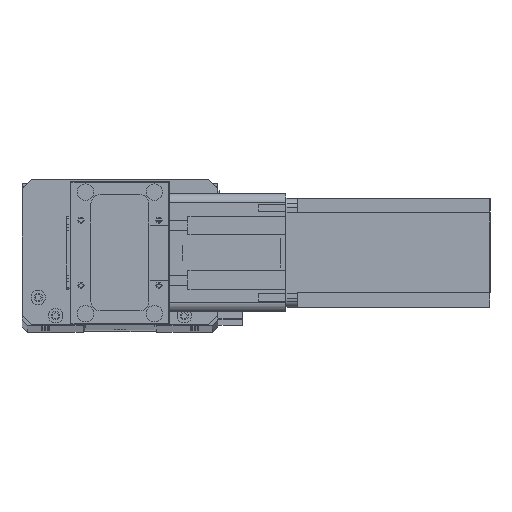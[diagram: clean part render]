
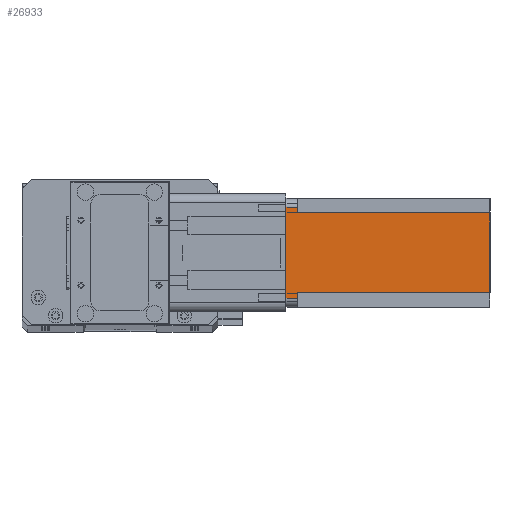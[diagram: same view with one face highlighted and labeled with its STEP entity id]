
A CAD part, top view. The second image highlights one B-rep face of the part: STEP entity #26933.
In plain terms, the highlighted planar face has unit normal (0, 0, 1) as drawn and (0, 1, 0) by its records, which use the part's own axes.
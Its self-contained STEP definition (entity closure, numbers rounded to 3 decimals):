
#214 = CARTESIAN_POINT ( 'NONE',  ( 0., 60., -112.5 ) ) ;
#1347 = EDGE_CURVE ( 'NONE', #11499, #14573, #23648, .T. ) ;
#1443 = LINE ( 'NONE', #25983, #19719 ) ;
#1473 = VECTOR ( 'NONE', #21817, 1000. ) ;
#1663 = ORIENTED_EDGE ( 'NONE', *, *, #25611, .T. ) ;
#1990 = EDGE_CURVE ( 'NONE', #12172, #14269, #6402, .T. ) ;
#3219 = EDGE_CURVE ( 'NONE', #14573, #12546, #10614, .T. ) ;
#4644 = ORIENTED_EDGE ( 'NONE', *, *, #12004, .T. ) ;
#4957 = DIRECTION ( 'NONE',  ( 0., 0., 1. ) ) ;
#5995 = ORIENTED_EDGE ( 'NONE', *, *, #1347, .F. ) ;
#6402 = LINE ( 'NONE', #11116, #17880 ) ;
#6979 = CARTESIAN_POINT ( 'NONE',  ( 8., 60., -112.5 ) ) ;
#7695 = DIRECTION ( 'NONE',  ( 0., 0., 1. ) ) ;
#8981 = CARTESIAN_POINT ( 'NONE',  ( 52., 60., -6.5 ) ) ;
#9122 = DIRECTION ( 'NONE',  ( 0., 0., -1. ) ) ;
#9909 = VECTOR ( 'NONE', #13001, 1000. ) ;
#9967 = DIRECTION ( 'NONE',  ( -1., 0., 0. ) ) ;
#10614 = LINE ( 'NONE', #19730, #9909 ) ;
#10618 = EDGE_LOOP ( 'NONE', ( #26141, #1663, #24070, #5995, #29285, #25496, #26674, #4644 ) ) ;
#11116 = CARTESIAN_POINT ( 'NONE',  ( 8., 60., -112.5 ) ) ;
#11499 = VERTEX_POINT ( 'NONE', #20426 ) ;
#11620 = DIRECTION ( 'NONE',  ( 0., 0., 1. ) ) ;
#12004 = EDGE_CURVE ( 'NONE', #15358, #21275, #16331, .T. ) ;
#12172 = VERTEX_POINT ( 'NONE', #12400 ) ;
#12400 = CARTESIAN_POINT ( 'NONE',  ( 8., 60., -6.5 ) ) ;
#12546 = VERTEX_POINT ( 'NONE', #20807 ) ;
#13001 = DIRECTION ( 'NONE',  ( 1., 0., 0. ) ) ;
#13108 = CARTESIAN_POINT ( 'NONE',  ( 5., 60., 0. ) ) ;
#13986 = CARTESIAN_POINT ( 'NONE',  ( 52., 60., -112.5 ) ) ;
#14269 = VERTEX_POINT ( 'NONE', #6979 ) ;
#14336 = VECTOR ( 'NONE', #23115, 1000. ) ;
#14543 = VECTOR ( 'NONE', #16310, 1000. ) ;
#14573 = VERTEX_POINT ( 'NONE', #8981 ) ;
#14649 = CARTESIAN_POINT ( 'NONE',  ( 5., 60., -6.5 ) ) ;
#15358 = VERTEX_POINT ( 'NONE', #14649 ) ;
#16310 = DIRECTION ( 'NONE',  ( 0., 0., -1. ) ) ;
#16331 = LINE ( 'NONE', #16342, #28480 ) ;
#16342 = CARTESIAN_POINT ( 'NONE',  ( 5., 60., -112.5 ) ) ;
#16722 = PLANE ( 'NONE',  #24488 ) ;
#16821 = CARTESIAN_POINT ( 'NONE',  ( 0., 60., -112.5 ) ) ;
#17394 = CARTESIAN_POINT ( 'NONE',  ( 55., 60., 0. ) ) ;
#17880 = VECTOR ( 'NONE', #9122, 1000. ) ;
#19719 = VECTOR ( 'NONE', #9967, 1000. ) ;
#19730 = CARTESIAN_POINT ( 'NONE',  ( 52., 60., -6.5 ) ) ;
#19909 = LINE ( 'NONE', #25488, #14543 ) ;
#20426 = CARTESIAN_POINT ( 'NONE',  ( 52., 60., -112.5 ) ) ;
#20437 = LINE ( 'NONE', #214, #14336 ) ;
#20807 = CARTESIAN_POINT ( 'NONE',  ( 55., 60., -6.5 ) ) ;
#21275 = VERTEX_POINT ( 'NONE', #13108 ) ;
#21426 = DIRECTION ( 'NONE',  ( 0., 1., 0. ) ) ;
#21817 = DIRECTION ( 'NONE',  ( -1., 0., 0. ) ) ;
#22938 = VECTOR ( 'NONE', #4957, 1000. ) ;
#23085 = VERTEX_POINT ( 'NONE', #17394 ) ;
#23115 = DIRECTION ( 'NONE',  ( -1., 0., 0. ) ) ;
#23412 = FACE_OUTER_BOUND ( 'NONE', #10618, .T. ) ;
#23648 = LINE ( 'NONE', #13986, #22938 ) ;
#24070 = ORIENTED_EDGE ( 'NONE', *, *, #3219, .F. ) ;
#24381 = LINE ( 'NONE', #26392, #1473 ) ;
#24488 = AXIS2_PLACEMENT_3D ( 'NONE', #16821, #21426, #7695 ) ;
#25488 = CARTESIAN_POINT ( 'NONE',  ( 55., 60., -112.5 ) ) ;
#25496 = ORIENTED_EDGE ( 'NONE', *, *, #1990, .F. ) ;
#25611 = EDGE_CURVE ( 'NONE', #23085, #12546, #19909, .T. ) ;
#25983 = CARTESIAN_POINT ( 'NONE',  ( 0., 60., 0. ) ) ;
#26141 = ORIENTED_EDGE ( 'NONE', *, *, #29617, .F. ) ;
#26392 = CARTESIAN_POINT ( 'NONE',  ( 8., 60., -6.5 ) ) ;
#26674 = ORIENTED_EDGE ( 'NONE', *, *, #29217, .T. ) ;
#26933 = ADVANCED_FACE ( 'NONE', ( #23412 ), #16722, .T. ) ;
#28480 = VECTOR ( 'NONE', #11620, 1000. ) ;
#29217 = EDGE_CURVE ( 'NONE', #12172, #15358, #24381, .T. ) ;
#29285 = ORIENTED_EDGE ( 'NONE', *, *, #29540, .T. ) ;
#29540 = EDGE_CURVE ( 'NONE', #11499, #14269, #20437, .T. ) ;
#29617 = EDGE_CURVE ( 'NONE', #23085, #21275, #1443, .T. ) ;
